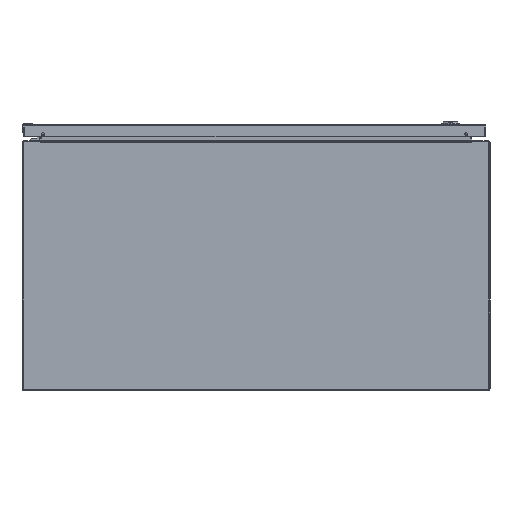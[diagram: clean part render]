
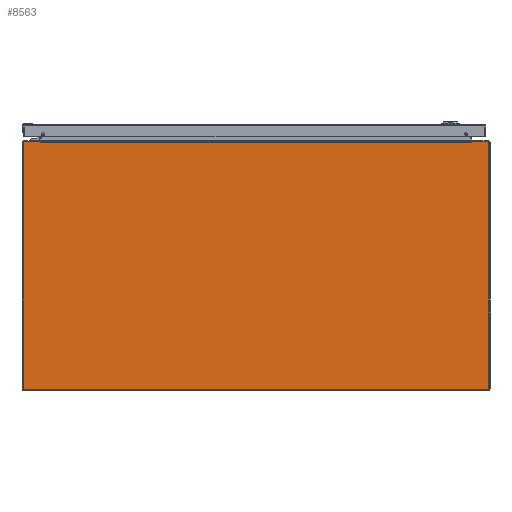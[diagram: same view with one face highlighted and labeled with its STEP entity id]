
A CAD part, front view. The second image highlights one B-rep face of the part: STEP entity #8563.
In plain terms, the highlighted planar face has unit normal (0, -1, 0).
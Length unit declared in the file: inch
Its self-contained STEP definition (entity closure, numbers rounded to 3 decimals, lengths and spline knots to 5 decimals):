
#7666=CARTESIAN_POINT('',(14.887,0.,7.897));
#7667=DIRECTION('',(0.,-1.,0.));
#7668=DIRECTION('',(1.,0.,0.));
#7669=AXIS2_PLACEMENT_3D('',#7666,#7667,#7668);
#7674=DIRECTION('',(0.,0.,-1.));
#7675=VECTOR('',#7674,15.764);
#7676=CARTESIAN_POINT('',(14.967,0.,7.897));
#7677=LINE('',#7676,#7675);
#7681=CARTESIAN_POINT('',(14.887,0.,-7.867));
#7682=DIRECTION('',(0.,-1.,0.));
#7683=DIRECTION('',(0.,0.,-1.));
#7684=AXIS2_PLACEMENT_3D('',#7681,#7682,#7683);
#7689=CARTESIAN_POINT('',(-14.887,0.,-7.867));
#7690=DIRECTION('',(0.,-1.,0.));
#7691=DIRECTION('',(-1.,0.,0.));
#7692=AXIS2_PLACEMENT_3D('',#7689,#7690,#7691);
#7697=DIRECTION('',(0.,0.,1.));
#7698=VECTOR('',#7697,15.764);
#7699=CARTESIAN_POINT('',(-14.967,0.,-7.867));
#7700=LINE('',#7699,#7698);
#7704=CARTESIAN_POINT('',(-14.887,0.,7.897));
#7705=DIRECTION('',(0.,-1.,0.));
#7706=DIRECTION('',(0.,0.,1.));
#7707=AXIS2_PLACEMENT_3D('',#7704,#7705,#7706);
#7719=DIRECTION('',(-1.,0.,0.));
#7720=VECTOR('',#7719,1.062);
#7721=CARTESIAN_POINT('',(14.887,0.,7.977));
#7722=LINE('',#7721,#7720);
#7747=DIRECTION('',(0.,0.,-1.));
#7748=VECTOR('',#7747,0.094);
#7749=CARTESIAN_POINT('',(13.825,0.,7.977));
#7750=LINE('',#7749,#7748);
#7890=DIRECTION('',(1.,0.,0.));
#7891=VECTOR('',#7890,27.65);
#7892=CARTESIAN_POINT('',(-13.825,0.,7.883));
#7893=LINE('',#7892,#7891);
#7934=DIRECTION('',(0.,0.,1.));
#7935=VECTOR('',#7934,0.094);
#7936=CARTESIAN_POINT('',(-13.825,0.,7.883));
#7937=LINE('',#7936,#7935);
#7969=DIRECTION('',(-1.,0.,0.));
#7970=VECTOR('',#7969,1.062);
#7971=CARTESIAN_POINT('',(-13.825,0.,7.977));
#7972=LINE('',#7971,#7970);
#8011=DIRECTION('',(1.,0.,0.));
#8012=VECTOR('',#8011,29.774);
#8013=CARTESIAN_POINT('',(-14.887,0.,-7.947));
#8014=LINE('',#8013,#8012);
#8416=CARTESIAN_POINT('',(-13.825,0.,7.883));
#8417=CARTESIAN_POINT('',(13.825,0.,7.883));
#8418=VERTEX_POINT('',#8416);
#8419=VERTEX_POINT('',#8417);
#8492=CARTESIAN_POINT('',(13.825,0.,7.977));
#8494=VERTEX_POINT('',#8492);
#8496=CARTESIAN_POINT('',(-13.825,0.,7.977));
#8498=VERTEX_POINT('',#8496);
#8500=CARTESIAN_POINT('',(14.967,0.,7.897));
#8501=CARTESIAN_POINT('',(14.887,0.,7.977));
#8502=VERTEX_POINT('',#8500);
#8503=VERTEX_POINT('',#8501);
#8508=CARTESIAN_POINT('',(14.887,0.,-7.947));
#8509=CARTESIAN_POINT('',(14.967,0.,-7.867));
#8510=VERTEX_POINT('',#8508);
#8511=VERTEX_POINT('',#8509);
#8516=CARTESIAN_POINT('',(-14.967,0.,-7.867));
#8517=CARTESIAN_POINT('',(-14.887,0.,-7.947));
#8518=VERTEX_POINT('',#8516);
#8519=VERTEX_POINT('',#8517);
#8524=CARTESIAN_POINT('',(-14.887,0.,7.977));
#8525=CARTESIAN_POINT('',(-14.967,0.,7.897));
#8526=VERTEX_POINT('',#8524);
#8527=VERTEX_POINT('',#8525);
#8532=CARTESIAN_POINT('',(0.,0.,0.));
#8533=DIRECTION('',(0.,-1.,0.));
#8534=DIRECTION('',(-1.,0.,0.));
#8535=AXIS2_PLACEMENT_3D('',#8532,#8533,#8534);
#8536=PLANE('',#8535);
#8538=ORIENTED_EDGE('',*,*,#8537,.F.);
#8540=ORIENTED_EDGE('',*,*,#8539,.T.);
#8542=ORIENTED_EDGE('',*,*,#8541,.F.);
#8544=ORIENTED_EDGE('',*,*,#8543,.F.);
#8546=ORIENTED_EDGE('',*,*,#8545,.F.);
#8548=ORIENTED_EDGE('',*,*,#8547,.T.);
#8550=ORIENTED_EDGE('',*,*,#8549,.F.);
#8552=ORIENTED_EDGE('',*,*,#8551,.F.);
#8554=ORIENTED_EDGE('',*,*,#8553,.F.);
#8556=ORIENTED_EDGE('',*,*,#8555,.T.);
#8558=ORIENTED_EDGE('',*,*,#8557,.F.);
#8560=ORIENTED_EDGE('',*,*,#8559,.F.);
#8561=EDGE_LOOP('',(#8538,#8540,#8542,#8544,#8546,#8548,#8550,#8552,#8554,#8556,
#8558,#8560));
#8562=FACE_OUTER_BOUND('',#8561,.F.);
#7670=CIRCLE('',#7669,0.08);
#7685=CIRCLE('',#7684,0.08);
#7693=CIRCLE('',#7692,0.08);
#7708=CIRCLE('',#7707,0.08);
#8537=EDGE_CURVE('',#8502,#8503,#7670,.T.);
#8539=EDGE_CURVE('',#8502,#8511,#7677,.T.);
#8541=EDGE_CURVE('',#8510,#8511,#7685,.T.);
#8543=EDGE_CURVE('',#8519,#8510,#8014,.T.);
#8545=EDGE_CURVE('',#8518,#8519,#7693,.T.);
#8547=EDGE_CURVE('',#8518,#8527,#7700,.T.);
#8549=EDGE_CURVE('',#8526,#8527,#7708,.T.);
#8551=EDGE_CURVE('',#8498,#8526,#7972,.T.);
#8553=EDGE_CURVE('',#8418,#8498,#7937,.T.);
#8555=EDGE_CURVE('',#8418,#8419,#7893,.T.);
#8557=EDGE_CURVE('',#8494,#8419,#7750,.T.);
#8559=EDGE_CURVE('',#8503,#8494,#7722,.T.);
#8563=ADVANCED_FACE('',(#8562),#8536,.T.);
